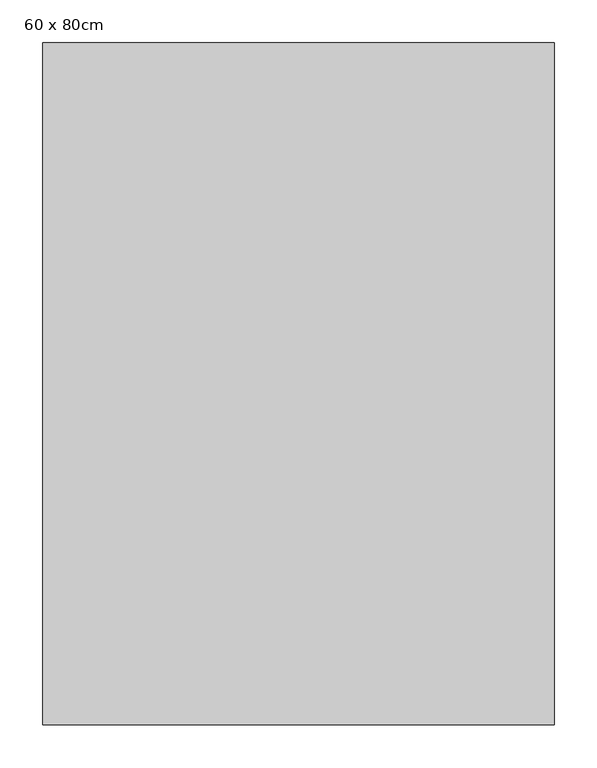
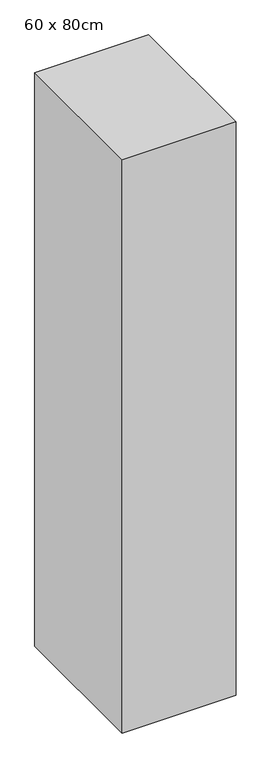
"""IFC4 building model written with IfcOpenShell, lengths in millimetres: column geometry, 混凝土柱-矩形 : 60 x 80cm."""

from ifc_helpers import new_model, si_unit, frame, origin, place, context, project, spatial, polyline, outline, extrude, source, transform, mapped, element, save


def column_60_x_80cm_a3a05302(model_context):
    return source(origin(), model_context, "Body", "SweptSolid", [
        extrude(outline(polyline([(300.0, 400.0), (300.0, -400.0), (-300.0, -400.0), (-300.0, 400.0), (300.0, 400.0)])), frame((0.0, 0.0, -9600.0), z_axis=(0.0, 0.0, 1.0), x_axis=(1.0, 0.0, 0.0)), (0.0, 0.0, 1.0), 3200.0),
    ])


if __name__ == "__main__":
    model = new_model("IFC4")
    model_context = context("Model", 3, world=origin())
    ifc_project = project(units=[si_unit("LENGTHUNIT", "METRE", prefix="MILLI")], contexts=[model_context])
    site = spatial("IfcSite", under=ifc_project)
    building = spatial("IfcBuilding", under=site)
    placement = place(None, origin())
    column_60_x_80cm_shape = column_60_x_80cm_a3a05302(model_context)
    element("IfcColumn", 1, ObjectType="混凝土柱-矩形 : 60 x 80cm", at=placement, inside=building, context=model_context, shape_type="MappedRepresentation", body=[
        mapped(column_60_x_80cm_shape, transform((0.0, 0.0, 0.0), x_axis=(1.0, 0.0, 0.0), y_axis=(0.0, 1.0, 0.0), z_axis=(0.0, 0.0, 1.0))),
    ])
    save(model, "model.ifc")
